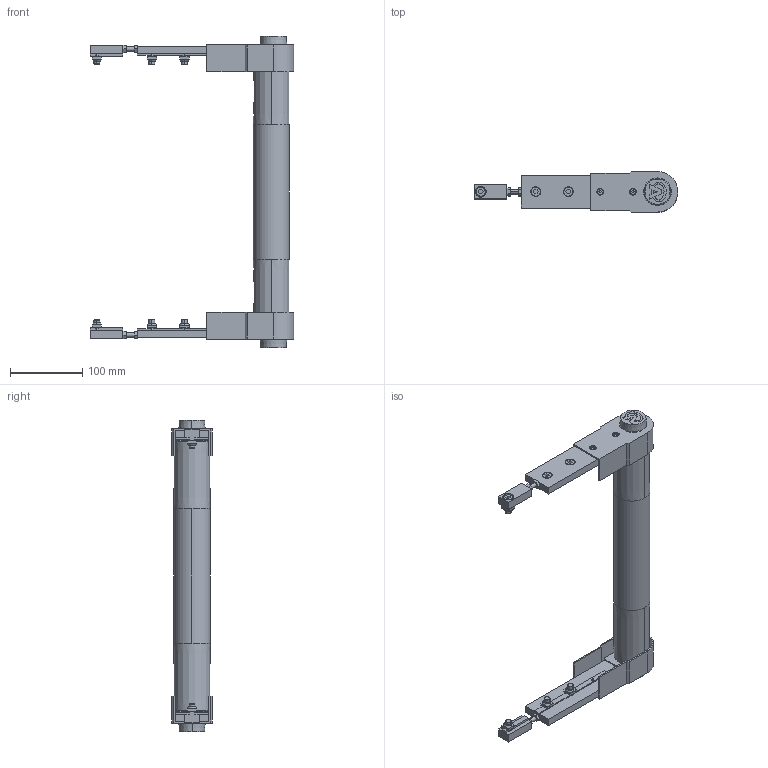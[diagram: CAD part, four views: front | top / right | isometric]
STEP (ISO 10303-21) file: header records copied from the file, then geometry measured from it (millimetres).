
FILE_DESCRIPTION (( 'STEP AP203' ), '1' );
FILE_NAME ('084.050.KIS.350.STEP', '2018-06-13T08:20:30', ( 'Localadmin' ), ( 'Microsoft' ), 'SwSTEP 2.0', 'SolidWorks 2016', '' );
FILE_SCHEMA (( 'CONFIG_CONTROL_DESIGN' ));
Length unit declared in the file: millimetre
Products named in the file (11): 084.802.008; 084.802.023_084.802.023; 084.301.000 VITI ALUSIC_084.301.003; 084.302.000 DADI ALUSIC 13x13_084.302.004; 084.807.002_084.807.002; VITI TSEI UNI 5933_M4x12 UNI 5933; 084.802.017_084.802.017; 084.050.KIS.350; 084.811.004; 084.815.128_Default<A macchina>; 084.810.001
Assembly tree (29 placements, depth 2):
  084.050.KIS.350
    084.807.002_084.807.002  x2
    084.802.017_084.802.017  x2
    084.811.004  x2
    084.815.128_Default<A macchina>
    084.810.001  x2
    084.802.008  x2
    084.802.023_084.802.023  x2
    084.301.000 VITI ALUSIC_084.301.003  x6
    084.302.000 DADI ALUSIC 13x13_084.302.004  x6
    VITI TSEI UNI 5933_M4x12 UNI 5933  x4
Bounding box: 281 x 56 x 430 mm (x, y, z)
Volume: 593612.5 mm3; surface area: 361711.6 mm2
Topology: 35 solids, 37 shells, 884 faces, 2188 edges, 1420 vertices
Faces by surface type: plane 446, cylinder 250, cone 84, torus 80, bspline 16, sphere 8
Entity records: 14137 total; most frequent: CARTESIAN_POINT 2428, DIRECTION 2232, ORIENTED_EDGE 2008, EDGE_CURVE 1004, AXIS2_PLACEMENT_3D 845, VERTEX_POINT 657, VECTOR 542, LINE 542
